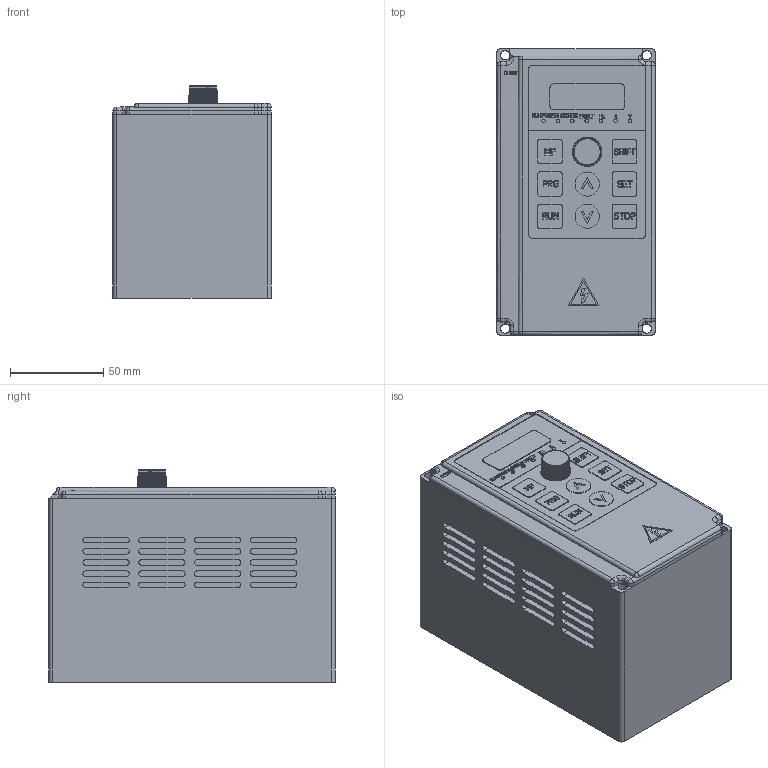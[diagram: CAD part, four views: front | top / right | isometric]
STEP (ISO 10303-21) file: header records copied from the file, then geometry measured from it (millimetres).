
FILE_DESCRIPTION(/* description */ (''),/* implementation_level */ '2;1');
FILE_NAME(/* name */ 'D:\2 ДОГОВОР ЧИНТ\NVF2G\NVF2G-0.4 TD2 NVF2G-0.75 TD2 NVF2G-1.5 TD2.stp',/* time_stamp */ '2019-03-10T18:19:26+03:00',/* author */ ('RSagdiev'),/* organization */ (''),/* preprocessor_version */ 'ST-DEVELOPER v16.5',/* originating_system */ 'Autodesk Inventor 2017',/* authorisation */ '');
FILE_SCHEMA (('AUTOMOTIVE_DESIGN { 1 0 10303 214 3 1 1 }'));
Length unit declared in the file: millimetre
Products named in the file (1): NVF2G-0.4 TD2 NVF2G-0.75 TD2 NVF2G-1.5 TD2
Bounding box: 85 x 154 x 114 mm (x, y, z)
Volume: 1328889.5 mm3; surface area: 165754.7 mm2
Topology: 17 solids, 17 shells, 1264 faces, 3379 edges, 2233 vertices
Faces by surface type: plane 841, bspline 229, cylinder 104, cone 90
Full cylindrical faces by diameter (mm): 2 x7, 5 x4, 13 x3
Entity records: 44252 total; most frequent: CARTESIAN_POINT 14276, ORIENTED_EDGE 6712, DIRECTION 5224, EDGE_CURVE 3353, LINE 2348, VECTOR 2348, VERTEX_POINT 2233, AXIS2_PLACEMENT_3D 1438
